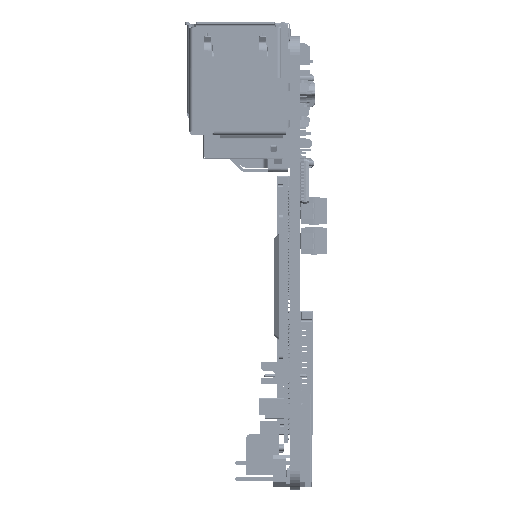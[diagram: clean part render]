
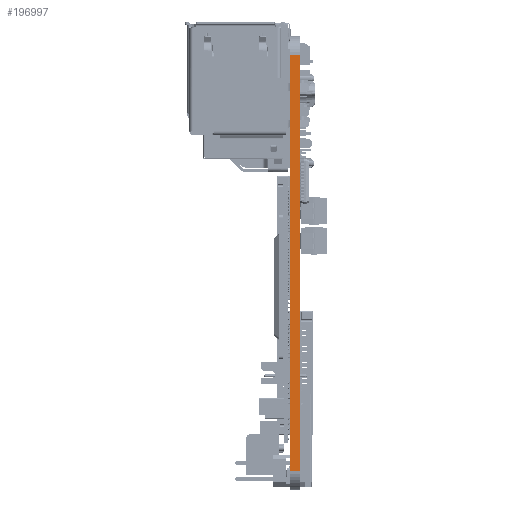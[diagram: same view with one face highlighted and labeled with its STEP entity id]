
A CAD part, left-side view. The second image highlights one B-rep face of the part: STEP entity #196997.
In plain terms, the highlighted planar face has unit normal (-1, 0, 0).
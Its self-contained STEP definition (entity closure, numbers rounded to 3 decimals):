
#14833 = ORIENTED_EDGE ( 'NONE', *, *, #138247, .F. ) ;
#22461 = VECTOR ( 'NONE', #346753, 1000. ) ;
#46076 = VERTEX_POINT ( 'NONE', #385209 ) ;
#53151 = CARTESIAN_POINT ( 'NONE',  ( 0., -1.6, -68. ) ) ;
#61538 = LINE ( 'NONE', #150385, #22461 ) ;
#75599 = CARTESIAN_POINT ( 'NONE',  ( 0., -1.6, -3. ) ) ;
#88735 = VERTEX_POINT ( 'NONE', #220057 ) ;
#94990 = FACE_OUTER_BOUND ( 'NONE', #110751, .T. ) ;
#110751 = EDGE_LOOP ( 'NONE', ( #14833, #463251, #339012, #202546 ) ) ;
#127068 = AXIS2_PLACEMENT_3D ( 'NONE', #53151, #254678, #293936 ) ;
#138247 = EDGE_CURVE ( 'NONE', #173355, #88735, #61538, .T. ) ;
#150385 = CARTESIAN_POINT ( 'NONE',  ( 0., 0., -68. ) ) ;
#165844 = PLANE ( 'NONE',  #127068 ) ;
#173355 = VERTEX_POINT ( 'NONE', #188745 ) ;
#187243 = LINE ( 'NONE', #386166, #223184 ) ;
#188745 = CARTESIAN_POINT ( 'NONE',  ( 0., 0., -68. ) ) ;
#196997 = ADVANCED_FACE ( 'NONE', ( #94990 ), #165844, .T. ) ;
#202546 = ORIENTED_EDGE ( 'NONE', *, *, #364175, .T. ) ;
#220057 = CARTESIAN_POINT ( 'NONE',  ( 0., 0., -3. ) ) ;
#223184 = VECTOR ( 'NONE', #312779, 1000. ) ;
#254678 = DIRECTION ( 'NONE',  ( -1., 0., 0. ) ) ;
#260426 = DIRECTION ( 'NONE',  ( 0., 1., 0. ) ) ;
#279465 = VECTOR ( 'NONE', #455037, 1000. ) ;
#293936 = DIRECTION ( 'NONE',  ( 0., 0., 1. ) ) ;
#312779 = DIRECTION ( 'NONE',  ( 0., 1., 0. ) ) ;
#314368 = EDGE_CURVE ( 'NONE', #46076, #173355, #187243, .T. ) ;
#339012 = ORIENTED_EDGE ( 'NONE', *, *, #418571, .T. ) ;
#346753 = DIRECTION ( 'NONE',  ( 0., 0., 1. ) ) ;
#364175 = EDGE_CURVE ( 'NONE', #494009, #88735, #464390, .T. ) ;
#376795 = VECTOR ( 'NONE', #260426, 1000. ) ;
#384267 = CARTESIAN_POINT ( 'NONE',  ( 0., -1.6, -68. ) ) ;
#385209 = CARTESIAN_POINT ( 'NONE',  ( 0., -1.6, -68. ) ) ;
#385939 = CARTESIAN_POINT ( 'NONE',  ( 0., -1.6, -3. ) ) ;
#386166 = CARTESIAN_POINT ( 'NONE',  ( 0., -1.6, -68. ) ) ;
#418571 = EDGE_CURVE ( 'NONE', #46076, #494009, #494335, .T. ) ;
#455037 = DIRECTION ( 'NONE',  ( 0., 0., 1. ) ) ;
#463251 = ORIENTED_EDGE ( 'NONE', *, *, #314368, .F. ) ;
#464390 = LINE ( 'NONE', #385939, #376795 ) ;
#494009 = VERTEX_POINT ( 'NONE', #75599 ) ;
#494335 = LINE ( 'NONE', #384267, #279465 ) ;
